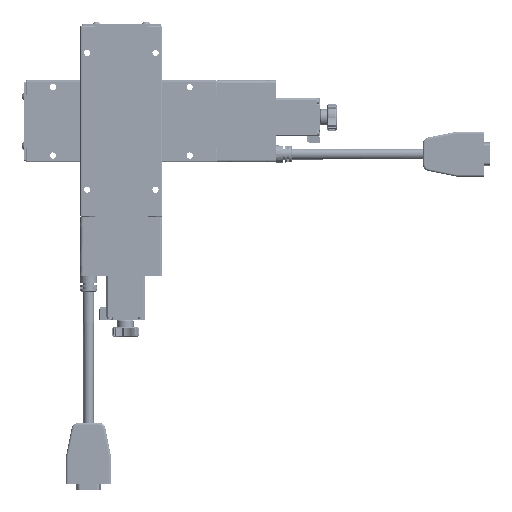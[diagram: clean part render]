
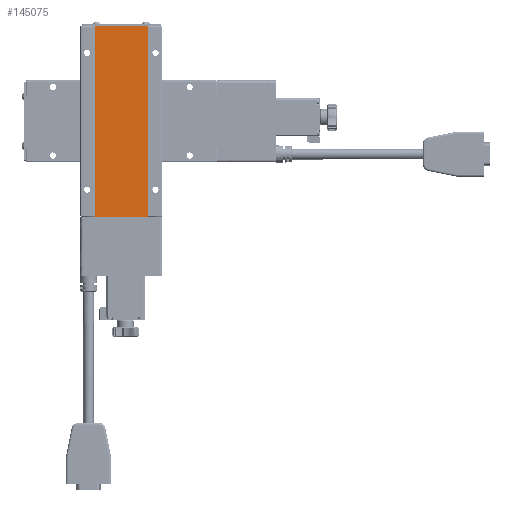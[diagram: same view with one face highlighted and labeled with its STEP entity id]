
A CAD part, front view. The second image highlights one B-rep face of the part: STEP entity #145075.
In plain terms, the highlighted planar face has unit normal (0, -1, 0).
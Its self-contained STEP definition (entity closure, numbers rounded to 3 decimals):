
#8858 = CARTESIAN_POINT ( 'NONE',  ( -6.433, -10.95, -69.8 ) ) ;
#17956 = ORIENTED_EDGE ( 'NONE', *, *, #145778, .T. ) ;
#19952 = B_SPLINE_CURVE_WITH_KNOTS ( 'NONE', 3,
 ( #148591, #124821, #49495, #110100 ),
 .UNSPECIFIED., .F., .F.,
 ( 4, 4 ),
 ( 0., 1. ),
 .UNSPECIFIED. ) ;
#21129 = CARTESIAN_POINT ( 'NONE',  ( -19.3, -10.95, -69.8 ) ) ;
#21479 = EDGE_CURVE ( 'NONE', #155134, #55689, #130183, .T. ) ;
#21945 = CARTESIAN_POINT ( 'NONE',  ( 19.3, -10.95, -69.8 ) ) ;
#22663 = AXIS2_PLACEMENT_3D ( 'NONE', #136671, #88320, #138251 ) ;
#28998 = EDGE_CURVE ( 'NONE', #55689, #40066, #148760, .T. ) ;
#30856 = B_SPLINE_CURVE_WITH_KNOTS ( 'NONE', 3,
 ( #61002, #85516, #110902, #98612 ),
 .UNSPECIFIED., .F., .F.,
 ( 4, 4 ),
 ( 0., 1. ),
 .UNSPECIFIED. ) ;
#40066 = VERTEX_POINT ( 'NONE', #119215 ) ;
#40170 = CARTESIAN_POINT ( 'NONE',  ( -19.3, -10.95, -69.8 ) ) ;
#49495 = CARTESIAN_POINT ( 'NONE',  ( 19.3, -10.95, 23.267 ) ) ;
#53302 = CARTESIAN_POINT ( 'NONE',  ( -19.3, -10.95, 69.8 ) ) ;
#55689 = VERTEX_POINT ( 'NONE', #161227 ) ;
#55733 = CARTESIAN_POINT ( 'NONE',  ( -19.3, -10.95, -23.267 ) ) ;
#57291 = EDGE_CURVE ( 'NONE', #40066, #69372, #19952, .T. ) ;
#61002 = CARTESIAN_POINT ( 'NONE',  ( 19.3, -10.95, 69.8 ) ) ;
#62040 = CARTESIAN_POINT ( 'NONE',  ( 6.433, -10.95, -69.8 ) ) ;
#67251 = CARTESIAN_POINT ( 'NONE',  ( -19.3, -10.95, 69.8 ) ) ;
#67399 = FACE_OUTER_BOUND ( 'NONE', #69072, .T. ) ;
#67982 = CARTESIAN_POINT ( 'NONE',  ( -19.3, -10.95, 23.267 ) ) ;
#69072 = EDGE_LOOP ( 'NONE', ( #17956, #150729, #144253, #81015 ) ) ;
#69372 = VERTEX_POINT ( 'NONE', #131627 ) ;
#81015 = ORIENTED_EDGE ( 'NONE', *, *, #57291, .T. ) ;
#85516 = CARTESIAN_POINT ( 'NONE',  ( 6.433, -10.95, 69.8 ) ) ;
#88320 = DIRECTION ( 'NONE',  ( 0., 1., 0. ) ) ;
#98612 = CARTESIAN_POINT ( 'NONE',  ( -19.3, -10.95, 69.8 ) ) ;
#110100 = CARTESIAN_POINT ( 'NONE',  ( 19.3, -10.95, 69.8 ) ) ;
#110902 = CARTESIAN_POINT ( 'NONE',  ( -6.433, -10.95, 69.8 ) ) ;
#119215 = CARTESIAN_POINT ( 'NONE',  ( 19.3, -10.95, -69.8 ) ) ;
#124821 = CARTESIAN_POINT ( 'NONE',  ( 19.3, -10.95, -23.267 ) ) ;
#130183 = B_SPLINE_CURVE_WITH_KNOTS ( 'NONE', 3,
 ( #53302, #67982, #55733, #40170 ),
 .UNSPECIFIED., .F., .F.,
 ( 4, 4 ),
 ( 0., 1. ),
 .UNSPECIFIED. ) ;
#131627 = CARTESIAN_POINT ( 'NONE',  ( 19.3, -10.95, 69.8 ) ) ;
#136671 = CARTESIAN_POINT ( 'NONE',  ( 19.3, -10.95, -69.8 ) ) ;
#138251 = DIRECTION ( 'NONE',  ( 1., 0., 0. ) ) ;
#144253 = ORIENTED_EDGE ( 'NONE', *, *, #28998, .T. ) ;
#145075 = ADVANCED_FACE ( 'NONE', ( #67399 ), #150546, .F. ) ;
#145778 = EDGE_CURVE ( 'NONE', #69372, #155134, #30856, .T. ) ;
#148591 = CARTESIAN_POINT ( 'NONE',  ( 19.3, -10.95, -69.8 ) ) ;
#148760 = B_SPLINE_CURVE_WITH_KNOTS ( 'NONE', 3,
 ( #21129, #8858, #62040, #21945 ),
 .UNSPECIFIED., .F., .F.,
 ( 4, 4 ),
 ( 0., 1. ),
 .UNSPECIFIED. ) ;
#150546 = PLANE ( 'NONE',  #22663 ) ;
#150729 = ORIENTED_EDGE ( 'NONE', *, *, #21479, .T. ) ;
#155134 = VERTEX_POINT ( 'NONE', #67251 ) ;
#161227 = CARTESIAN_POINT ( 'NONE',  ( -19.3, -10.95, -69.8 ) ) ;
